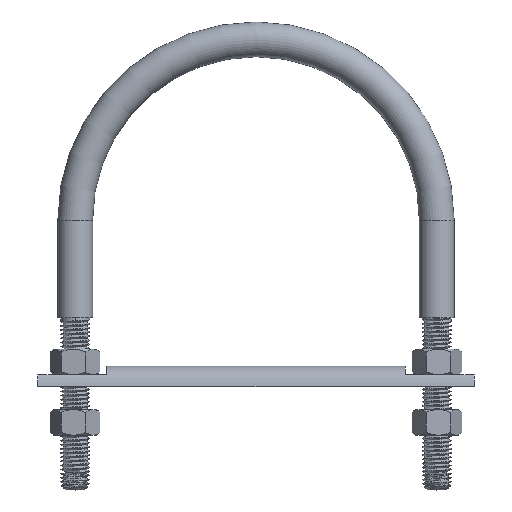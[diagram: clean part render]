
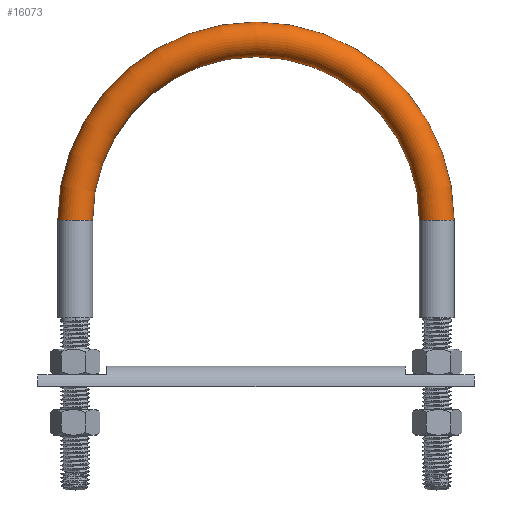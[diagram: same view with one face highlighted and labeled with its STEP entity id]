
A CAD part, top view. The second image highlights one B-rep face of the part: STEP entity #16073.
In plain terms, the highlighted toroidal (fillet/blend) face has major radius 100.013 mm and minor radius 9.62 mm.
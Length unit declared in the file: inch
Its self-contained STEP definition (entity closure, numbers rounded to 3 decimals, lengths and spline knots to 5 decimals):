
#269 = DIRECTION ( 'NONE',  ( 0., -1., 0. ) ) ;
#331 = CARTESIAN_POINT ( 'NONE',  ( 3.9375, 5.875, 0. ) ) ;
#517 = DIRECTION ( 'NONE',  ( 0., 1., 0. ) ) ;
#1530 = CIRCLE ( 'NONE', #15395, 4.31625 ) ;
#1942 = VERTEX_POINT ( 'NONE', #11892 ) ;
#3276 = CARTESIAN_POINT ( 'NONE',  ( 0., 5.875, 0. ) ) ;
#3327 = EDGE_CURVE ( 'NONE', #18893, #11492, #1530, .T. ) ;
#3986 = CARTESIAN_POINT ( 'NONE',  ( 0., 5.875, 0. ) ) ;
#4055 = AXIS2_PLACEMENT_3D ( 'NONE', #8141, #269, #17114 ) ;
#4304 = EDGE_CURVE ( 'Edge1', #8515, #11492, #14141, .T. ) ;
#4676 = FACE_OUTER_BOUND ( 'NONE', #19220, .T. ) ;
#6084 = AXIS2_PLACEMENT_3D ( 'NONE', #3986, #7347, #7250 ) ;
#7214 = EDGE_CURVE ( 'NONE', #1942, #18893, #8194, .T. ) ;
#7250 = DIRECTION ( 'NONE',  ( 1., 0., 0. ) ) ;
#7347 = DIRECTION ( 'NONE',  ( 0., 0., 1. ) ) ;
#8141 = CARTESIAN_POINT ( 'NONE',  ( -3.9375, 5.875, 0. ) ) ;
#8194 = CIRCLE ( 'NONE', #9451, 0.37875 ) ;
#8276 = TOROIDAL_SURFACE ( 'NONE', #16153, 3.9375, 0.37875 ) ;
#8515 = VERTEX_POINT ( 'NONE', #9784 ) ;
#9298 = DIRECTION ( 'NONE',  ( 0., 0., 1. ) ) ;
#9451 = AXIS2_PLACEMENT_3D ( 'NONE', #331, #517, #18374 ) ;
#9464 = ORIENTED_EDGE ( 'NONE', *, *, #7214, .T. ) ;
#9784 = CARTESIAN_POINT ( 'NONE',  ( -3.55875, 5.875, 0. ) ) ;
#10428 = CARTESIAN_POINT ( 'NONE',  ( -4.31625, 5.875, 0. ) ) ;
#10867 = ORIENTED_EDGE ( 'NONE', *, *, #15896, .F. ) ;
#11492 = VERTEX_POINT ( 'NONE', #10428 ) ;
#11892 = CARTESIAN_POINT ( 'NONE',  ( 3.55875, 5.875, 0. ) ) ;
#11963 = DIRECTION ( 'NONE',  ( 1., 0., 0. ) ) ;
#12063 = DIRECTION ( 'NONE',  ( 0., 0., 1. ) ) ;
#13551 = CARTESIAN_POINT ( 'NONE',  ( 0., 5.875, 0. ) ) ;
#13972 = CARTESIAN_POINT ( 'NONE',  ( 4.31625, 5.875, 0. ) ) ;
#14141 = CIRCLE ( 'NONE', #4055, 0.37875 ) ;
#14425 = ORIENTED_EDGE ( 'NONE', *, *, #3327, .T. ) ;
#14892 = CIRCLE ( 'NONE', #6084, 3.55875 ) ;
#14946 = ORIENTED_EDGE ( 'NONE', *, *, #4304, .F. ) ;
#15317 = DIRECTION ( 'NONE',  ( 1., 0., 0. ) ) ;
#15395 = AXIS2_PLACEMENT_3D ( 'NONE', #3276, #9298, #15317 ) ;
#15896 = EDGE_CURVE ( 'NONE', #1942, #8515, #14892, .T. ) ;
#16073 = ADVANCED_FACE ( 'Face1', ( #4676 ), #8276, .T. ) ;
#16153 = AXIS2_PLACEMENT_3D ( 'NONE', #13551, #12063, #11963 ) ;
#17114 = DIRECTION ( 'NONE',  ( 0., 0., 1. ) ) ;
#18374 = DIRECTION ( 'NONE',  ( 0., 0., 1. ) ) ;
#18893 = VERTEX_POINT ( 'NONE', #13972 ) ;
#19220 = EDGE_LOOP ( 'NONE', ( #9464, #14425, #14946, #10867 ) ) ;
